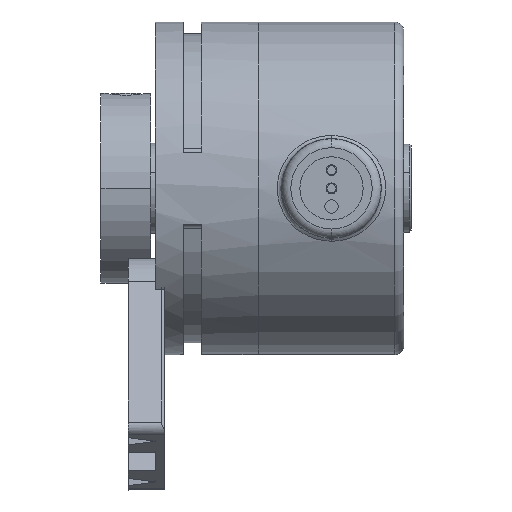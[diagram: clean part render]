
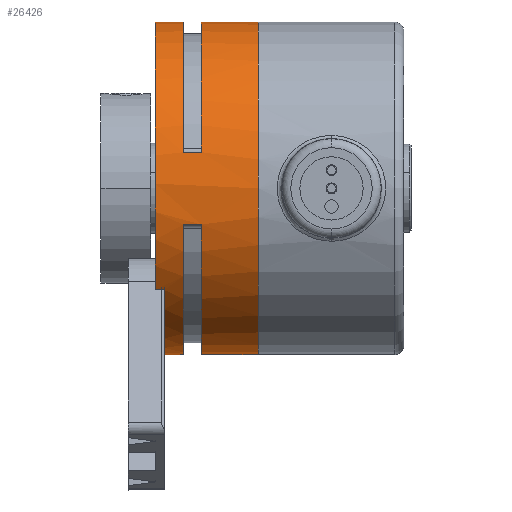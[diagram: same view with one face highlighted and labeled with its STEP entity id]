
A CAD part, front view. The second image highlights one B-rep face of the part: STEP entity #26426.
In plain terms, the highlighted cylindrical face has radius 18.4 mm (diameter 36.8 mm), a partial arc.
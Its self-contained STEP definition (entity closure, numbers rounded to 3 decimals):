
#5442 = DIRECTION ( 'NONE',  ( -1., 0., 0. ) ) ;
#5443 = VECTOR ( 'NONE', #5442, 1000. ) ;
#5444 = CARTESIAN_POINT ( 'NONE',  ( 76.76, -17.498, -18.4 ) ) ;
#5445 = LINE ( 'NONE', #5444, #5443 ) ;
#5487 = CARTESIAN_POINT ( 'NONE',  ( 92.56, -17.498, 18.4 ) ) ;
#5520 = DIRECTION ( 'NONE',  ( -1., 0., 0. ) ) ;
#5521 = VECTOR ( 'NONE', #5520, 1000. ) ;
#5522 = CARTESIAN_POINT ( 'NONE',  ( 76.76, -17.498, 18.4 ) ) ;
#5523 = LINE ( 'NONE', #5522, #5521 ) ;
#5570 = CARTESIAN_POINT ( 'NONE',  ( 86.26, -17.498, -18.4 ) ) ;
#5571 = CARTESIAN_POINT ( 'NONE',  ( 92.56, -17.498, -18.4 ) ) ;
#5579 = CARTESIAN_POINT ( 'NONE',  ( 84.26, -17.498, 18.4 ) ) ;
#5580 = CARTESIAN_POINT ( 'NONE',  ( 81.16, -17.498, 18.4 ) ) ;
#5586 = CARTESIAN_POINT ( 'NONE',  ( 81.16, -17.498, -18.4 ) ) ;
#5596 = DIRECTION ( 'NONE',  ( -1., 0., 0. ) ) ;
#5597 = VECTOR ( 'NONE', #5596, 1000. ) ;
#5598 = CARTESIAN_POINT ( 'NONE',  ( 76.76, -17.498, -18.4 ) ) ;
#5599 = LINE ( 'NONE', #5598, #5597 ) ;
#5600 = CARTESIAN_POINT ( 'NONE',  ( 84.26, -17.498, -18.4 ) ) ;
#5678 = CARTESIAN_POINT ( 'NONE',  ( 86.26, -17.498, 18.4 ) ) ;
#5697 = LINE ( 'NONE', #5752, #5751 ) ;
#5750 = DIRECTION ( 'NONE',  ( -1., 0., 0. ) ) ;
#5751 = VECTOR ( 'NONE', #5750, 1000. ) ;
#5752 = CARTESIAN_POINT ( 'NONE',  ( 76.76, -17.498, 18.4 ) ) ;
#8917 = CARTESIAN_POINT ( 'NONE',  ( 82.16, -32.069, -11.237 ) ) ;
#8918 = DIRECTION ( 'NONE',  ( -1., 0., 0. ) ) ;
#8919 = VECTOR ( 'NONE', #8918, 1000. ) ;
#8920 = CARTESIAN_POINT ( 'NONE',  ( 82.16, -32.069, -11.237 ) ) ;
#8921 = LINE ( 'NONE', #8920, #8919 ) ;
#8922 = CARTESIAN_POINT ( 'NONE',  ( 81.16, -32.069, -11.237 ) ) ;
#8923 = DIRECTION ( 'NONE',  ( 0., 0., 1. ) ) ;
#8924 = DIRECTION ( 'NONE',  ( -1., 0., 0. ) ) ;
#8925 = CARTESIAN_POINT ( 'NONE',  ( 81.16, -17.498, 0. ) ) ;
#8926 = AXIS2_PLACEMENT_3D ( 'NONE', #8925, #8924, #8923 ) ;
#8927 = CIRCLE ( 'NONE', #8926, 18.4 ) ;
#8928 = DIRECTION ( 'NONE',  ( 0., 0., -1. ) ) ;
#8929 = DIRECTION ( 'NONE',  ( 1., 0., 0. ) ) ;
#8930 = CARTESIAN_POINT ( 'NONE',  ( 84.26, -17.498, 0. ) ) ;
#8931 = AXIS2_PLACEMENT_3D ( 'NONE', #8930, #8929, #8928 ) ;
#8932 = CIRCLE ( 'NONE', #8931, 18.4 ) ;
#8974 = AXIS2_PLACEMENT_3D ( 'NONE', #8981, #9032, #9031 ) ;
#8975 = CIRCLE ( 'NONE', #8974, 18.4 ) ;
#8976 = DIRECTION ( 'NONE',  ( 0., 0., 1. ) ) ;
#8977 = DIRECTION ( 'NONE',  ( -1., 0., 0. ) ) ;
#8978 = CARTESIAN_POINT ( 'NONE',  ( 82.16, -17.498, 0. ) ) ;
#8979 = AXIS2_PLACEMENT_3D ( 'NONE', #8978, #8977, #8976 ) ;
#8980 = CIRCLE ( 'NONE', #8979, 18.4 ) ;
#8981 = CARTESIAN_POINT ( 'NONE',  ( 84.26, -17.498, 0. ) ) ;
#9026 = CARTESIAN_POINT ( 'NONE',  ( 86.26, -35.458, -4. ) ) ;
#9027 = DIRECTION ( 'NONE',  ( -1., 0., 0. ) ) ;
#9028 = VECTOR ( 'NONE', #9027, 1000. ) ;
#9029 = CARTESIAN_POINT ( 'NONE',  ( 86.26, -35.458, -4. ) ) ;
#9030 = LINE ( 'NONE', #9029, #9028 ) ;
#9031 = DIRECTION ( 'NONE',  ( 0., 0., -1. ) ) ;
#9032 = DIRECTION ( 'NONE',  ( 1., 0., 0. ) ) ;
#9042 = FACE_OUTER_BOUND ( 'NONE', #26427, .T. ) ;
#9043 = DIRECTION ( 'NONE',  ( 0., 0., 1. ) ) ;
#9044 = DIRECTION ( 'NONE',  ( -1., 0., 0. ) ) ;
#9045 = CARTESIAN_POINT ( 'NONE',  ( 92.56, -17.498, 0. ) ) ;
#9046 = AXIS2_PLACEMENT_3D ( 'NONE', #9045, #9044, #9043 ) ;
#9047 = CIRCLE ( 'NONE', #9046, 18.4 ) ;
#9049 = CARTESIAN_POINT ( 'NONE',  ( 81.16, -19.944, -18.237 ) ) ;
#9050 = DIRECTION ( 'NONE',  ( -1., 0., 0. ) ) ;
#9051 = VECTOR ( 'NONE', #9050, 1000. ) ;
#9052 = CARTESIAN_POINT ( 'NONE',  ( 82.16, -19.944, -18.237 ) ) ;
#9053 = LINE ( 'NONE', #9052, #9051 ) ;
#9060 = CARTESIAN_POINT ( 'NONE',  ( 82.16, -19.944, -18.237 ) ) ;
#9061 = DIRECTION ( 'NONE',  ( 0., 0., -1. ) ) ;
#9062 = DIRECTION ( 'NONE',  ( 1., 0., 0. ) ) ;
#9063 = CARTESIAN_POINT ( 'NONE',  ( 86.26, -17.498, 0. ) ) ;
#9064 = AXIS2_PLACEMENT_3D ( 'NONE', #9063, #9062, #9061 ) ;
#9065 = CIRCLE ( 'NONE', #9064, 18.4 ) ;
#9075 = CARTESIAN_POINT ( 'NONE',  ( 86.26, -35.458, 4. ) ) ;
#9076 = DIRECTION ( 'NONE',  ( 0., 0., -1. ) ) ;
#9077 = DIRECTION ( 'NONE',  ( 1., 0., 0. ) ) ;
#9078 = CARTESIAN_POINT ( 'NONE',  ( 86.26, -17.498, 0. ) ) ;
#9079 = AXIS2_PLACEMENT_3D ( 'NONE', #9078, #9077, #9076 ) ;
#9080 = DIRECTION ( 'NONE',  ( 0., 0., 1. ) ) ;
#9081 = DIRECTION ( 'NONE',  ( -1., 0., 0. ) ) ;
#9082 = AXIS2_PLACEMENT_3D ( 'NONE', #9085, #9081, #9080 ) ;
#9083 = CYLINDRICAL_SURFACE ( 'NONE', #9082, 18.4 ) ;
#9084 = CIRCLE ( 'NONE', #9079, 18.4 ) ;
#9085 = CARTESIAN_POINT ( 'NONE',  ( 76.76, -17.498, 0. ) ) ;
#9108 = CARTESIAN_POINT ( 'NONE',  ( 84.26, -35.458, 4. ) ) ;
#9109 = DIRECTION ( 'NONE',  ( -1., 0., 0. ) ) ;
#9110 = VECTOR ( 'NONE', #9109, 1000. ) ;
#9111 = CARTESIAN_POINT ( 'NONE',  ( 86.26, -35.458, 4. ) ) ;
#9112 = LINE ( 'NONE', #9111, #9110 ) ;
#9202 = CARTESIAN_POINT ( 'NONE',  ( 84.26, -35.458, -4. ) ) ;
#9203 = DIRECTION ( 'NONE',  ( 0., 0., 1. ) ) ;
#9204 = DIRECTION ( 'NONE',  ( -1., 0., 0. ) ) ;
#9205 = CARTESIAN_POINT ( 'NONE',  ( 81.16, -17.498, 0. ) ) ;
#9206 = AXIS2_PLACEMENT_3D ( 'NONE', #9205, #9204, #9203 ) ;
#9207 = CIRCLE ( 'NONE', #9206, 18.4 ) ;
#25123 = EDGE_CURVE ( 'NONE', #25164, #25165, #5445, .T. ) ;
#25131 = VERTEX_POINT ( 'NONE', #5487 ) ;
#25160 = EDGE_CURVE ( 'NONE', #25193, #25192, #5523, .T. ) ;
#25164 = VERTEX_POINT ( 'NONE', #5571 ) ;
#25165 = VERTEX_POINT ( 'NONE', #5570 ) ;
#25182 = VERTEX_POINT ( 'NONE', #5600 ) ;
#25184 = EDGE_CURVE ( 'NONE', #25182, #25189, #5599, .T. ) ;
#25189 = VERTEX_POINT ( 'NONE', #5586 ) ;
#25192 = VERTEX_POINT ( 'NONE', #5580 ) ;
#25193 = VERTEX_POINT ( 'NONE', #5579 ) ;
#25224 = VERTEX_POINT ( 'NONE', #5678 ) ;
#25237 = EDGE_CURVE ( 'NONE', #25131, #25224, #5697, .T. ) ;
#26357 = ORIENTED_EDGE ( 'NONE', *, *, #26358, .F. ) ;
#26358 = EDGE_CURVE ( 'NONE', #25193, #26447, #8932, .T. ) ;
#26359 = ORIENTED_EDGE ( 'NONE', *, *, #25160, .T. ) ;
#26360 = ORIENTED_EDGE ( 'NONE', *, *, #26361, .F. ) ;
#26361 = EDGE_CURVE ( 'NONE', #26362, #25192, #8927, .T. ) ;
#26362 = VERTEX_POINT ( 'NONE', #8922 ) ;
#26363 = ORIENTED_EDGE ( 'NONE', *, *, #26364, .F. ) ;
#26364 = EDGE_CURVE ( 'NONE', #26365, #26362, #8921, .T. ) ;
#26365 = VERTEX_POINT ( 'NONE', #8917 ) ;
#26366 = ORIENTED_EDGE ( 'NONE', *, *, #26404, .F. ) ;
#26404 = EDGE_CURVE ( 'NONE', #26415, #26365, #8980, .T. ) ;
#26405 = ORIENTED_EDGE ( 'NONE', *, *, #26406, .F. ) ;
#26406 = EDGE_CURVE ( 'NONE', #26489, #25182, #8975, .T. ) ;
#26407 = ORIENTED_EDGE ( 'NONE', *, *, #26408, .F. ) ;
#26408 = EDGE_CURVE ( 'NONE', #26410, #26489, #9030, .T. ) ;
#26409 = ORIENTED_EDGE ( 'NONE', *, *, #26420, .T. ) ;
#26410 = VERTEX_POINT ( 'NONE', #9026 ) ;
#26411 = ORIENTED_EDGE ( 'NONE', *, *, #26414, .T. ) ;
#26414 = EDGE_CURVE ( 'NONE', #26410, #25165, #9065, .T. ) ;
#26415 = VERTEX_POINT ( 'NONE', #9060 ) ;
#26420 = EDGE_CURVE ( 'NONE', #26415, #26421, #9053, .T. ) ;
#26421 = VERTEX_POINT ( 'NONE', #9049 ) ;
#26423 = EDGE_CURVE ( 'NONE', #25164, #25131, #9047, .T. ) ;
#26426 = ADVANCED_FACE ( 'NONE', ( #9042 ), #9083, .T. ) ;
#26427 = EDGE_LOOP ( 'NONE', ( #26428, #26429, #26430, #26431, #26445, #26357, #26359, #26360, #26363, #26366, #26409, #26488, #26487, #26405, #26407, #26411 ) ) ;
#26428 = ORIENTED_EDGE ( 'NONE', *, *, #25123, .F. ) ;
#26429 = ORIENTED_EDGE ( 'NONE', *, *, #26423, .T. ) ;
#26430 = ORIENTED_EDGE ( 'NONE', *, *, #25237, .T. ) ;
#26431 = ORIENTED_EDGE ( 'NONE', *, *, #26432, .T. ) ;
#26432 = EDGE_CURVE ( 'NONE', #25224, #26433, #9084, .T. ) ;
#26433 = VERTEX_POINT ( 'NONE', #9075 ) ;
#26445 = ORIENTED_EDGE ( 'NONE', *, *, #26446, .T. ) ;
#26446 = EDGE_CURVE ( 'NONE', #26433, #26447, #9112, .T. ) ;
#26447 = VERTEX_POINT ( 'NONE', #9108 ) ;
#26486 = EDGE_CURVE ( 'NONE', #25189, #26421, #9207, .T. ) ;
#26487 = ORIENTED_EDGE ( 'NONE', *, *, #25184, .F. ) ;
#26488 = ORIENTED_EDGE ( 'NONE', *, *, #26486, .F. ) ;
#26489 = VERTEX_POINT ( 'NONE', #9202 ) ;
